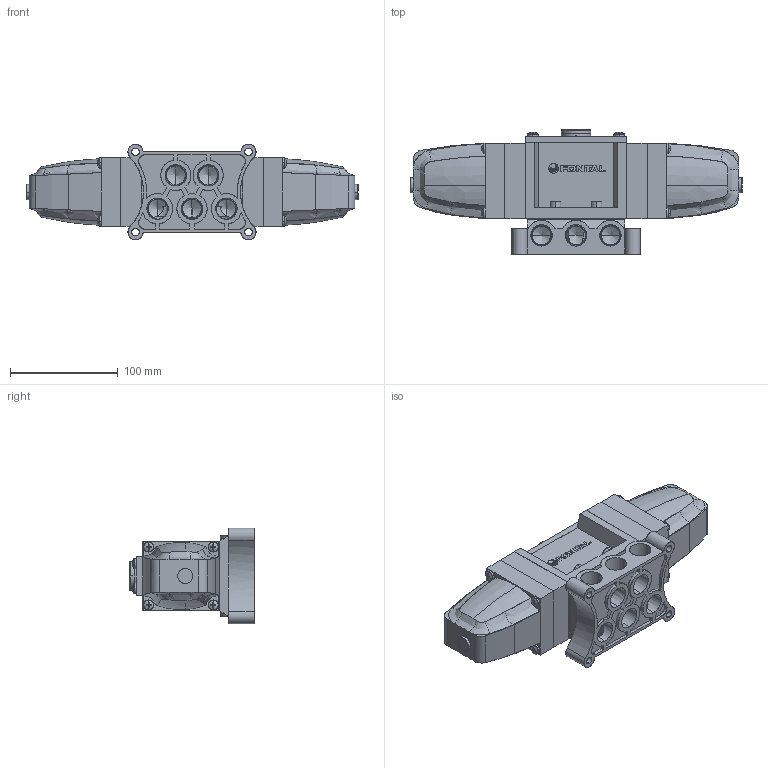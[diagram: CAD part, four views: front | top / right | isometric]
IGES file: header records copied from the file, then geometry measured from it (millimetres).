
Start section: SolidWorks IGES file using analytic representation for surfaces
Global section: file name: D:\Custom\3D繪製\A\A10\AD3410-04-##.IGS,1; native system: 5HSolidWorks 2014; preprocessor: SolidWorks 2014; author: Chieh_Lu; date: 151223.134722; units: millimetre
Bounding box: 308 x 115.6 x 88.6 mm (x, y, z)
Surface area: 194300.9 mm2 (no closed solid volume)
Topology: 0 solids, 0 shells, 943 faces, 11310 edges, 11262 vertices
Faces by surface type: bspline 579, revolution 364
